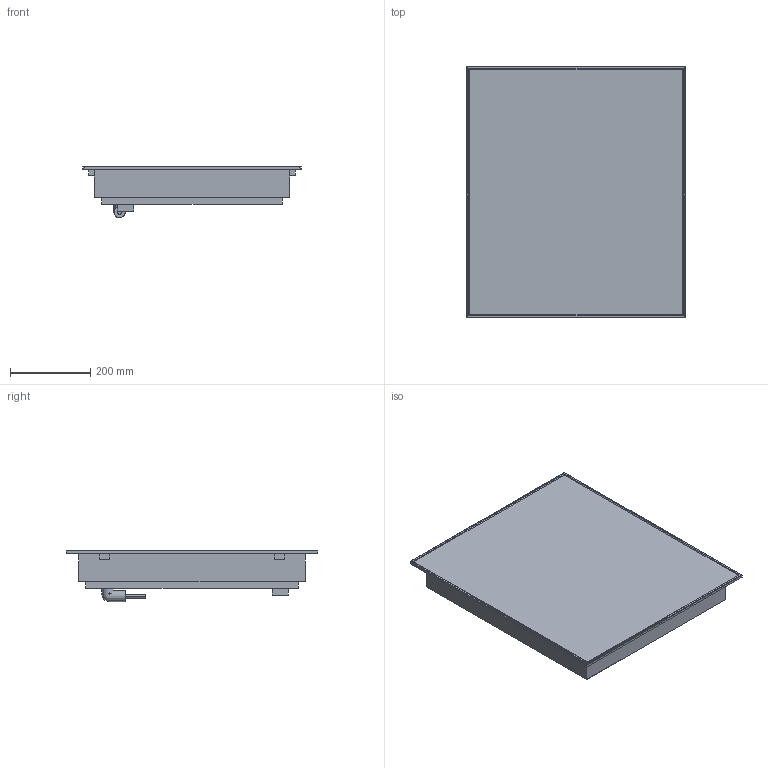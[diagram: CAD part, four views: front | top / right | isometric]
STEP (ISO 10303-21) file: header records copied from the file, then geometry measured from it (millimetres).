
FILE_DESCRIPTION(/* description */ (''),/* implementation_level */ '2;1');
FILE_NAME(/* name */ '26632052USA_KM6320_CLST',/* time_stamp */ '2015-02-12T16:20:42+01:00',/* author */ (''),/* organization */ (''),/* preprocessor_version */ 'ST-DEVELOPER v10',/* originating_system */ '',/* authorisation */ '');
FILE_SCHEMA (('AUTOMOTIVE_DESIGN_CC2'));
Length unit declared in the file: millimetre
Products named in the file (1): 1
Bounding box: 543.99 x 626 x 127.97 mm (x, y, z)
Volume: 27105003.8 mm3; surface area: 1984836.6 mm2
Topology: 11 solids, 11 shells, 90 faces, 188 edges, 116 vertices
Faces by surface type: bspline 90
Entity records: 5955 total; most frequent: CARTESIAN_POINT 4681, ORIENTED_EDGE 368, EDGE_CURVE 184, B_SPLINE_CURVE_WITH_KNOTS 148, VERTEX_POINT 116, EDGE_LOOP 92, ADVANCED_FACE 90, FACE_OUTER_BOUND 90
